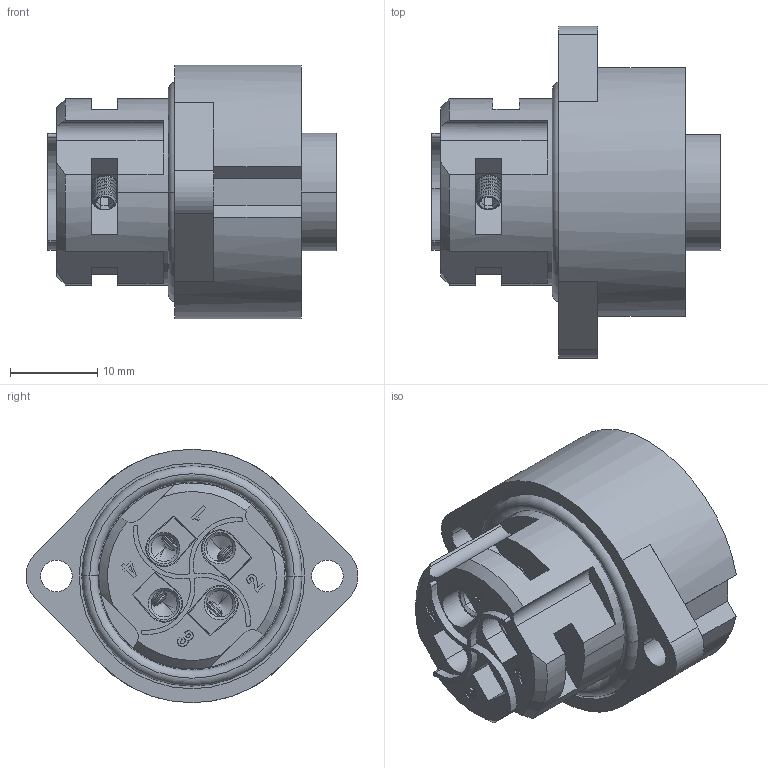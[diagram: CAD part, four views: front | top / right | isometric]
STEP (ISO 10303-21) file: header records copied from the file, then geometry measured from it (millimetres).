
FILE_DESCRIPTION((''),'2;1');
FILE_NAME('PRT0007','2015-05-09T',('Administrator'),(''),'PRO/ENGINEER BY PARAMETRIC TECHNOLOGY CORPORATION, 2009440','PRO/ENGINEER BY PARAMETRIC TECHNOLOGY CORPORATION, 2009440','');
FILE_SCHEMA(('CONFIG_CONTROL_DESIGN'));
Length unit declared in the file: millimetre
Products named in the file (1): PRT0007
Bounding box: 33 x 37.99 x 29 mm (x, y, z)
Volume: 10897.7 mm3; surface area: 10644.7 mm2
Topology: 2 solids, 2 shells, 1136 faces, 3250 edges, 2115 vertices
Faces by surface type: plane 510, extrusion 282, cylinder 209, cone 80, bspline 41, sphere 8, torus 6
Entity records: 48416 total; most frequent: CARTESIAN_POINT 20613, ORIENTED_EDGE 6452, DIRECTION 4478, EDGE_CURVE 3226, VERTEX_POINT 2115, VECTOR 1962, LINE 1680, B_SPLINE_CURVE_WITH_KNOTS 1383
